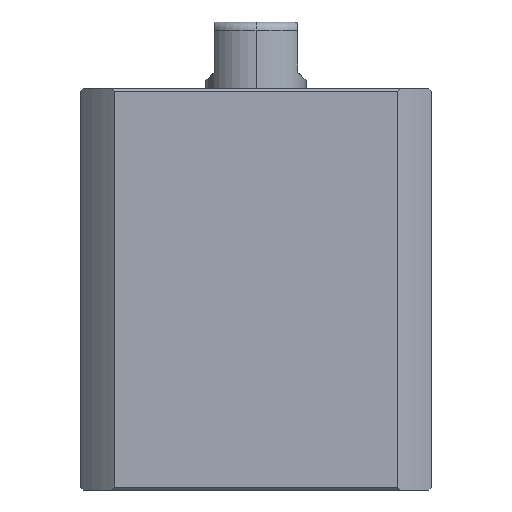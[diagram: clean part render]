
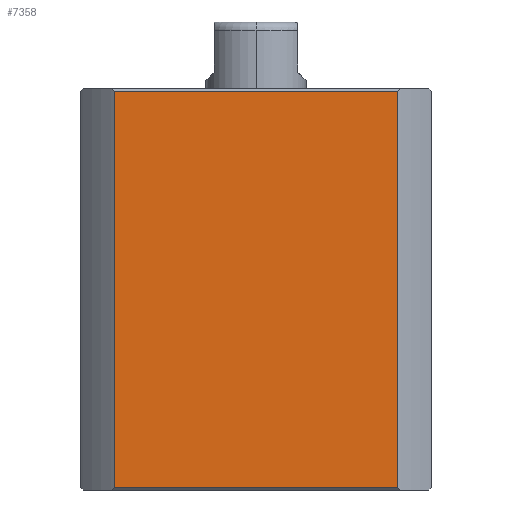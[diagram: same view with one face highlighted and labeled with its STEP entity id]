
A CAD part, left-side view. The second image highlights one B-rep face of the part: STEP entity #7358.
In plain terms, the highlighted planar face has unit normal (-1, 0, 0).
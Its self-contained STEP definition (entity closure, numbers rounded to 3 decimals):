
#621 = LINE ( 'NONE', #9830, #9639 ) ;
#862 = VECTOR ( 'NONE', #7948, 1000. ) ;
#1001 = VECTOR ( 'NONE', #8276, 1000. ) ;
#1862 = EDGE_CURVE ( 'NONE', #7859, #2491, #621, .T. ) ;
#2128 = DIRECTION ( 'NONE',  ( 1., 0., 0. ) ) ;
#2335 = VERTEX_POINT ( 'NONE', #4657 ) ;
#2491 = VERTEX_POINT ( 'NONE', #7062 ) ;
#2504 = DIRECTION ( 'NONE',  ( 0., -1., 0. ) ) ;
#3566 = LINE ( 'NONE', #8806, #862 ) ;
#3930 = CARTESIAN_POINT ( 'NONE',  ( -21., 21., 48. ) ) ;
#4657 = CARTESIAN_POINT ( 'NONE',  ( -21., 16.971, 47.7 ) ) ;
#5471 = CARTESIAN_POINT ( 'NONE',  ( -21., 16.971, 48.429 ) ) ;
#5794 = LINE ( 'NONE', #7384, #1001 ) ;
#6382 = DIRECTION ( 'NONE',  ( 0., 0., 1. ) ) ;
#6396 = EDGE_CURVE ( 'NONE', #7321, #2335, #5794, .T. ) ;
#7001 = EDGE_LOOP ( 'NONE', ( #7578, #10450, #9097, #7402 ) ) ;
#7062 = CARTESIAN_POINT ( 'NONE',  ( -21., -16.971, 0.3 ) ) ;
#7321 = VERTEX_POINT ( 'NONE', #10193 ) ;
#7358 = ADVANCED_FACE ( 'NONE', ( #8611 ), #11080, .F. ) ;
#7384 = CARTESIAN_POINT ( 'NONE',  ( -21., 21., 47.7 ) ) ;
#7402 = ORIENTED_EDGE ( 'NONE', *, *, #1862, .T. ) ;
#7578 = ORIENTED_EDGE ( 'NONE', *, *, #8409, .F. ) ;
#7859 = VERTEX_POINT ( 'NONE', #10775 ) ;
#7948 = DIRECTION ( 'NONE',  ( 0., 0., -1. ) ) ;
#8276 = DIRECTION ( 'NONE',  ( 0., 1., 0. ) ) ;
#8409 = EDGE_CURVE ( 'NONE', #7321, #2491, #3566, .T. ) ;
#8434 = DIRECTION ( 'NONE',  ( 0., 1., 0. ) ) ;
#8436 = VECTOR ( 'NONE', #6382, 1000. ) ;
#8611 = FACE_OUTER_BOUND ( 'NONE', #7001, .T. ) ;
#8709 = LINE ( 'NONE', #5471, #8436 ) ;
#8806 = CARTESIAN_POINT ( 'NONE',  ( -21., -16.971, 48.429 ) ) ;
#9097 = ORIENTED_EDGE ( 'NONE', *, *, #9974, .F. ) ;
#9639 = VECTOR ( 'NONE', #2504, 1000. ) ;
#9830 = CARTESIAN_POINT ( 'NONE',  ( -21., 21., 0.3 ) ) ;
#9974 = EDGE_CURVE ( 'NONE', #7859, #2335, #8709, .T. ) ;
#10121 = AXIS2_PLACEMENT_3D ( 'NONE', #3930, #2128, #8434 ) ;
#10193 = CARTESIAN_POINT ( 'NONE',  ( -21., -16.971, 47.7 ) ) ;
#10450 = ORIENTED_EDGE ( 'NONE', *, *, #6396, .T. ) ;
#10775 = CARTESIAN_POINT ( 'NONE',  ( -21., 16.971, 0.3 ) ) ;
#11080 = PLANE ( 'NONE',  #10121 ) ;
